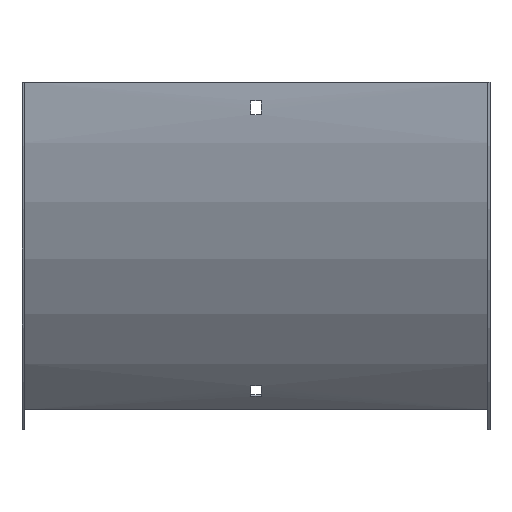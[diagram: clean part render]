
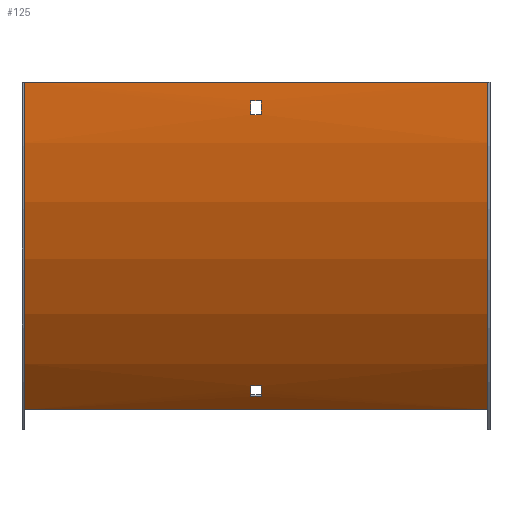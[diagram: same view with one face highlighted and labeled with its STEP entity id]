
A CAD part, front view. The second image highlights one B-rep face of the part: STEP entity #125.
In plain terms, the highlighted cylindrical face has radius 300 mm (diameter 600 mm), a partial arc.
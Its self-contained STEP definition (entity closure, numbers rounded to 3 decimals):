
#17 = VERTEX_POINT ( 'NONE', #410 ) ;
#23 = DIRECTION ( 'NONE',  ( 0., 0., 1. ) ) ;
#26 = EDGE_CURVE ( 'NONE', #574, #147, #439, .T. ) ;
#29 = VECTOR ( 'NONE', #32, 1000. ) ;
#32 = DIRECTION ( 'NONE',  ( -1., 0., 0. ) ) ;
#35 = DIRECTION ( 'NONE',  ( -1., 0., 0. ) ) ;
#41 = CARTESIAN_POINT ( 'NONE',  ( -3.25, 298.5, 0. ) ) ;
#44 = LINE ( 'NONE', #270, #29 ) ;
#57 = CARTESIAN_POINT ( 'NONE',  ( 150., -1.5, 0. ) ) ;
#65 = DIRECTION ( 'NONE',  ( -1., 0., 0. ) ) ;
#69 = CIRCLE ( 'NONE', #362, 300. ) ;
#70 = CARTESIAN_POINT ( 'NONE',  ( -150., 86.368, -212.132 ) ) ;
#97 = CIRCLE ( 'NONE', #253, 300. ) ;
#99 = AXIS2_PLACEMENT_3D ( 'NONE', #536, #319, #230 ) ;
#112 = VERTEX_POINT ( 'NONE', #398 ) ;
#120 = CARTESIAN_POINT ( 'NONE',  ( 151.5, -1.26, -12. ) ) ;
#124 = DIRECTION ( 'NONE',  ( 1., 0., 0. ) ) ;
#125 = ADVANCED_FACE ( 'NONE', ( #126, #280, #442 ), #273, .T. ) ;
#126 = FACE_BOUND ( 'NONE', #567, .T. ) ;
#127 = EDGE_CURVE ( 'NONE', #17, #250, #183, .T. ) ;
#129 = DIRECTION ( 'NONE',  ( -1., 0., 0. ) ) ;
#133 = LINE ( 'NONE', #324, #420 ) ;
#140 = CARTESIAN_POINT ( 'NONE',  ( 3.25, -0.764, -21. ) ) ;
#144 = CARTESIAN_POINT ( 'NONE',  ( -3.25, -1.26, -12. ) ) ;
#146 = AXIS2_PLACEMENT_3D ( 'NONE', #496, #585, #525 ) ;
#147 = VERTEX_POINT ( 'NONE', #70 ) ;
#150 = CIRCLE ( 'NONE', #556, 300. ) ;
#154 = ORIENTED_EDGE ( 'NONE', *, *, #26, .F. ) ;
#169 = VERTEX_POINT ( 'NONE', #265 ) ;
#176 = EDGE_CURVE ( 'NONE', #574, #478, #97, .T. ) ;
#177 = ORIENTED_EDGE ( 'NONE', *, *, #282, .T. ) ;
#183 = LINE ( 'NONE', #120, #199 ) ;
#193 = DIRECTION ( 'NONE',  ( -1., 0., 0. ) ) ;
#195 = ORIENTED_EDGE ( 'NONE', *, *, #417, .T. ) ;
#197 = AXIS2_PLACEMENT_3D ( 'NONE', #234, #124, #592 ) ;
#199 = VECTOR ( 'NONE', #35, 1000. ) ;
#205 = CARTESIAN_POINT ( 'NONE',  ( -150., -1.5, 0. ) ) ;
#209 = EDGE_LOOP ( 'NONE', ( #568, #154, #383, #264 ) ) ;
#227 = CARTESIAN_POINT ( 'NONE',  ( 3.25, 298.5, 0. ) ) ;
#230 = DIRECTION ( 'NONE',  ( 0., 0., 1. ) ) ;
#234 = CARTESIAN_POINT ( 'NONE',  ( -3.25, 298.5, 0. ) ) ;
#246 = EDGE_CURVE ( 'NONE', #452, #341, #596, .T. ) ;
#250 = VERTEX_POINT ( 'NONE', #144 ) ;
#253 = AXIS2_PLACEMENT_3D ( 'NONE', #305, #260, #23 ) ;
#258 = DIRECTION ( 'NONE',  ( 0., 0., 1. ) ) ;
#260 = DIRECTION ( 'NONE',  ( -1., 0., 0. ) ) ;
#264 = ORIENTED_EDGE ( 'NONE', *, *, #560, .T. ) ;
#265 = CARTESIAN_POINT ( 'NONE',  ( -3.25, 72.039, -196.762 ) ) ;
#266 = DIRECTION ( 'NONE',  ( -1., 0., 0. ) ) ;
#270 = CARTESIAN_POINT ( 'NONE',  ( 151.5, 78.052, -203.477 ) ) ;
#271 = VECTOR ( 'NONE', #385, 1000. ) ;
#273 = CYLINDRICAL_SURFACE ( 'NONE', #146, 300. ) ;
#280 = FACE_OUTER_BOUND ( 'NONE', #209, .T. ) ;
#282 = EDGE_CURVE ( 'NONE', #169, #579, #133, .T. ) ;
#285 = VECTOR ( 'NONE', #359, 1000. ) ;
#305 = CARTESIAN_POINT ( 'NONE',  ( 150., 298.5, 0. ) ) ;
#308 = EDGE_CURVE ( 'NONE', #112, #169, #549, .T. ) ;
#311 = EDGE_CURVE ( 'NONE', #341, #17, #150, .T. ) ;
#313 = VERTEX_POINT ( 'NONE', #320 ) ;
#319 = DIRECTION ( 'NONE',  ( 1., 0., 0. ) ) ;
#320 = CARTESIAN_POINT ( 'NONE',  ( 3.25, 78.052, -203.477 ) ) ;
#323 = VECTOR ( 'NONE', #266, 1000. ) ;
#324 = CARTESIAN_POINT ( 'NONE',  ( 151.5, 72.039, -196.762 ) ) ;
#341 = VERTEX_POINT ( 'NONE', #140 ) ;
#344 = CARTESIAN_POINT ( 'NONE',  ( -3.25, -0.764, -21. ) ) ;
#355 = CARTESIAN_POINT ( 'NONE',  ( 150., 86.368, -212.132 ) ) ;
#359 = DIRECTION ( 'NONE',  ( 1., 0., 0. ) ) ;
#362 = AXIS2_PLACEMENT_3D ( 'NONE', #475, #65, #258 ) ;
#383 = ORIENTED_EDGE ( 'NONE', *, *, #176, .T. ) ;
#385 = DIRECTION ( 'NONE',  ( -1., 0., 0. ) ) ;
#388 = EDGE_LOOP ( 'NONE', ( #195, #554, #177, #476 ) ) ;
#398 = CARTESIAN_POINT ( 'NONE',  ( -3.25, 78.052, -203.477 ) ) ;
#401 = DIRECTION ( 'NONE',  ( 0., 0., -1. ) ) ;
#410 = CARTESIAN_POINT ( 'NONE',  ( 3.25, -1.26, -12. ) ) ;
#417 = EDGE_CURVE ( 'NONE', #313, #112, #44, .T. ) ;
#420 = VECTOR ( 'NONE', #552, 1000. ) ;
#438 = EDGE_CURVE ( 'NONE', #579, #313, #602, .T. ) ;
#439 = LINE ( 'NONE', #355, #323 ) ;
#442 = FACE_BOUND ( 'NONE', #388, .T. ) ;
#452 = VERTEX_POINT ( 'NONE', #344 ) ;
#457 = CIRCLE ( 'NONE', #197, 300. ) ;
#462 = LINE ( 'NONE', #57, #271 ) ;
#469 = ORIENTED_EDGE ( 'NONE', *, *, #587, .F. ) ;
#475 = CARTESIAN_POINT ( 'NONE',  ( -150., 298.5, 0. ) ) ;
#476 = ORIENTED_EDGE ( 'NONE', *, *, #438, .T. ) ;
#478 = VERTEX_POINT ( 'NONE', #516 ) ;
#496 = CARTESIAN_POINT ( 'NONE',  ( 151.5, 298.5, 0. ) ) ;
#507 = ORIENTED_EDGE ( 'NONE', *, *, #246, .F. ) ;
#512 = CARTESIAN_POINT ( 'NONE',  ( 150., 86.368, -212.132 ) ) ;
#516 = CARTESIAN_POINT ( 'NONE',  ( 150., -1.5, 0. ) ) ;
#525 = DIRECTION ( 'NONE',  ( 0., 0., 1. ) ) ;
#528 = ORIENTED_EDGE ( 'NONE', *, *, #311, .F. ) ;
#533 = CARTESIAN_POINT ( 'NONE',  ( 3.25, 72.039, -196.762 ) ) ;
#536 = CARTESIAN_POINT ( 'NONE',  ( 3.25, 298.5, 0. ) ) ;
#547 = DIRECTION ( 'NONE',  ( 0., 0., -1. ) ) ;
#549 = CIRCLE ( 'NONE', #581, 300. ) ;
#551 = VERTEX_POINT ( 'NONE', #205 ) ;
#552 = DIRECTION ( 'NONE',  ( 1., 0., 0. ) ) ;
#554 = ORIENTED_EDGE ( 'NONE', *, *, #308, .T. ) ;
#556 = AXIS2_PLACEMENT_3D ( 'NONE', #227, #129, #401 ) ;
#560 = EDGE_CURVE ( 'NONE', #478, #551, #462, .T. ) ;
#567 = EDGE_LOOP ( 'NONE', ( #469, #580, #528, #507 ) ) ;
#568 = ORIENTED_EDGE ( 'NONE', *, *, #606, .F. ) ;
#574 = VERTEX_POINT ( 'NONE', #512 ) ;
#579 = VERTEX_POINT ( 'NONE', #533 ) ;
#580 = ORIENTED_EDGE ( 'NONE', *, *, #127, .F. ) ;
#581 = AXIS2_PLACEMENT_3D ( 'NONE', #41, #193, #547 ) ;
#585 = DIRECTION ( 'NONE',  ( -1., 0., 0. ) ) ;
#587 = EDGE_CURVE ( 'NONE', #250, #452, #457, .T. ) ;
#590 = CARTESIAN_POINT ( 'NONE',  ( 151.5, -0.764, -21. ) ) ;
#592 = DIRECTION ( 'NONE',  ( 0., 0., 1. ) ) ;
#596 = LINE ( 'NONE', #590, #285 ) ;
#602 = CIRCLE ( 'NONE', #99, 300. ) ;
#606 = EDGE_CURVE ( 'NONE', #147, #551, #69, .T. ) ;
